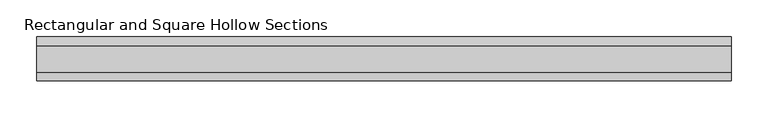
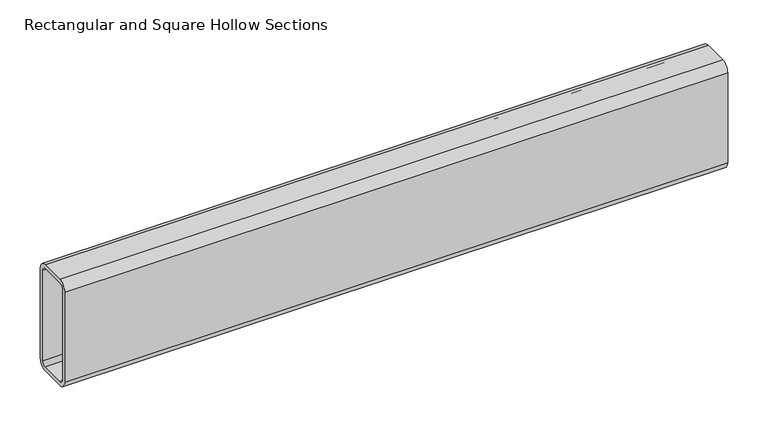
"""IFC4 building model written with IfcOpenShell, lengths in millimetres: beam geometry, Rectangular and Square Hollow Sections : TREC160x60x6."""

from ifc_helpers import new_model, si_unit, point, frame, frame_2d, origin, place, context, project, spatial, polyline, circle_curve, trimmed, segment, composite_curve, outline, extrude, source, transform, mapped, element, save


def rectangular_and_square_hollow_sections_bb85826c(model_context):
    return source(origin(), model_context, "Body", "SweptSolid", [
        extrude(outline(composite_curve([segment(polyline([(30.0, 68.0), (30.0, -68.0)]), True, "CONTINUOUS"), segment(trimmed(circle_curve(frame_2d((18.0, -68.0)), 12.0), [point((30.0, -68.0))], [point((18.0, -80.0))], False, "CARTESIAN"), True, "CONTINUOUS"), segment(polyline([(18.0, -80.0), (-18.0, -80.0)]), True, "CONTINUOUS"), segment(trimmed(circle_curve(frame_2d((-18.0, -68.0)), 12.0), [point((-18.0, -80.0))], [point((-30.0, -68.0))], False, "CARTESIAN"), True, "CONTINUOUS"), segment(polyline([(-30.0, -68.0), (-30.0, 68.0)]), True, "CONTINUOUS"), segment(trimmed(circle_curve(frame_2d((-18.0, 68.0)), 12.0), [point((-30.0, 68.0))], [point((-18.0, 80.0))], False, "CARTESIAN"), True, "CONTINUOUS"), segment(polyline([(-18.0, 80.0), (18.0, 80.0)]), True, "CONTINUOUS"), segment(trimmed(circle_curve(frame_2d((18.0, 68.0)), 12.0), [point((18.0, 80.0))], [point((30.0, 68.0))], False, "CARTESIAN"), True, "CONTINUOUS")], self_intersect=False), holes=[composite_curve([segment(trimmed(circle_curve(frame_2d((-18.0, 68.0)), 6.0), [point((-18.0, 74.0))], [point((-24.0, 68.0))], True, "CARTESIAN"), True, "CONTINUOUS"), segment(polyline([(-24.0, 68.0), (-24.0, -68.0)]), True, "CONTINUOUS"), segment(trimmed(circle_curve(frame_2d((-18.0, -68.0)), 6.0), [point((-24.0, -68.0))], [point((-18.0, -74.0))], True, "CARTESIAN"), True, "CONTINUOUS"), segment(polyline([(-18.0, -74.0), (18.0, -74.0)]), True, "CONTINUOUS"), segment(trimmed(circle_curve(frame_2d((18.0, -68.0)), 6.0), [point((18.0, -74.0))], [point((24.0, -68.0))], True, "CARTESIAN"), True, "CONTINUOUS"), segment(polyline([(24.0, -68.0), (24.0, 68.0)]), True, "CONTINUOUS"), segment(trimmed(circle_curve(frame_2d((18.0, 68.0)), 6.0), [point((24.0, 68.0))], [point((18.0, 74.0))], True, "CARTESIAN"), True, "CONTINUOUS"), segment(polyline([(18.0, 74.0), (-18.0, 74.0)]), True, "CONTINUOUS")], self_intersect=False)]), frame((-472.5, 0.0, 0.0), z_axis=(1.0, 0.0, 0.0), x_axis=(0.0, 1.0, 0.0)), (0.0, 0.0, 1.0), 945.0),
    ])


if __name__ == "__main__":
    model = new_model("IFC4")
    model_context = context("Model", 3, world=origin())
    ifc_project = project(units=[si_unit("LENGTHUNIT", "METRE", prefix="MILLI")], contexts=[model_context])
    site = spatial("IfcSite", under=ifc_project)
    building = spatial("IfcBuilding", under=site)
    placement = place(None, origin())
    rectangular_and_square_hollow_sections_shape = rectangular_and_square_hollow_sections_bb85826c(model_context)
    element("IfcBeam", 1, ObjectType="Rectangular and Square Hollow Sections : TREC160x60x6", at=placement, inside=building, context=model_context, shape_type="MappedRepresentation", body=[
        mapped(rectangular_and_square_hollow_sections_shape, transform((0.0, 0.0, 0.0), x_axis=(1.0, 0.0, 0.0), y_axis=(0.0, 1.0, 0.0), z_axis=(0.0, 0.0, 1.0))),
    ])
    save(model, "model.ifc")
